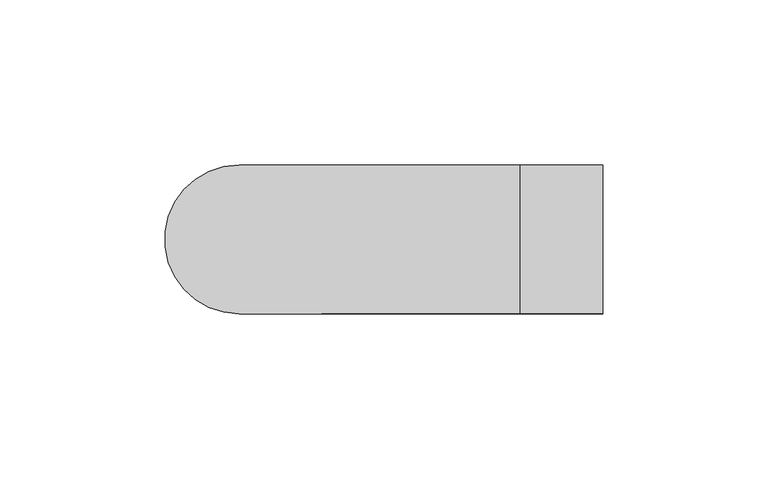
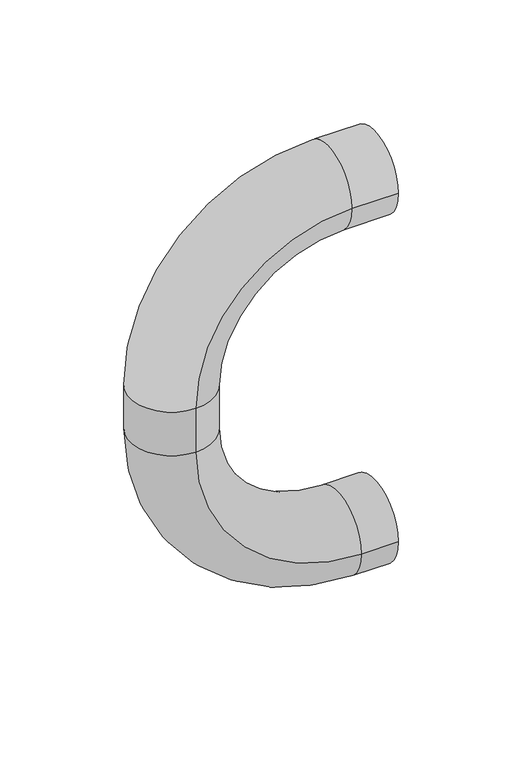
"""IFC4 building model written with IfcOpenShell, lengths in millimetres: proxy geometry, Terminaciones 1 : Terminaciones 1."""

from ifc_helpers import new_model, si_unit, point, frame, origin, place, context, project, spatial, circle_curve, ellipse_curve, trimmed, source, transform, mapped, element, save
from ifc_brep_helpers import plane_surface, cylinder_surface, revolved_surface, advanced_brep


def building_element_proxy_9133cc3a(model_context):
    return source(origin(), model_context, "Body", "AdvancedBrep", [
        advanced_brep(
        [(-8723.5949598, 421.1072273, 697.5), (-8723.5949598, 376.1072273, 697.5), (-8748.5949598, 421.1072273, 697.5), (-8748.5949598, 376.1072273, 697.5), (-8833.5949598, 376.1072273, 612.5), (-8833.5949598, 421.1072273, 612.5), (-8833.5949598, 421.1072273, 587.5), (-8833.5949598, 376.1072273, 587.5), (-8743.5949598, 376.1072273, 497.5), (-8743.5949598, 421.1072273, 497.5), (-8723.5949598, 421.1072273, 497.5), (-8723.5949598, 376.1072273, 497.5)],
        [
            (0, 1, circle_curve(frame((-8723.5949598, 398.6072273, 697.5), z_axis=(1.0, 0.0, 0.0), x_axis=(0.0, -1.0, 0.0)), 22.5)),
            (1, 0, circle_curve(frame((-8723.5949598, 398.6072273, 697.5), z_axis=(1.0, 0.0, 0.0), x_axis=(0.0, -1.0, 0.0)), 22.5)),
            (0, 2),
            (2, 3, circle_curve(frame((-8748.5949598, 398.6072273, 697.5), z_axis=(1.0, 0.0, 0.0), x_axis=(0.0, -1.0, 0.0)), 22.5)),
            (3, 1),
            (3, 2, circle_curve(frame((-8748.5949598, 398.6072273, 697.5), z_axis=(1.0, 0.0, 0.0), x_axis=(0.0, -1.0, 0.0)), 22.5)),
            (4, 3, circle_curve(frame((-8748.5949598, 376.1072273, 612.5), z_axis=(0.0, 1.0, 0.0), x_axis=(0.0, 0.0, 1.0)), 85.0)),
            (2, 5, circle_curve(frame((-8748.5949598, 421.1072273, 612.5), z_axis=(0.0, -1.0, 0.0), x_axis=(0.0, 0.0, 1.0)), 85.0)),
            (5, 4, circle_curve(frame((-8833.5949598, 398.6072273, 612.5), z_axis=(0.0, 0.0, 1.0), x_axis=(0.0, -1.0, 0.0)), 22.5)),
            (4, 5, circle_curve(frame((-8833.5949598, 398.6072273, 612.5), z_axis=(0.0, 0.0, 1.0), x_axis=(0.0, -1.0, 0.0)), 22.5)),
            (5, 6),
            (6, 7, circle_curve(frame((-8833.5949598, 398.6072273, 587.5), z_axis=(0.0, 0.0, 1.0), x_axis=(0.0, -1.0, 0.0)), 22.5)),
            (7, 4),
            (7, 6, circle_curve(frame((-8833.5949598, 398.6072273, 587.5), z_axis=(0.0, 0.0, 1.0), x_axis=(0.0, -1.0, 0.0)), 22.5)),
            (8, 7, circle_curve(frame((-8743.5949598, 376.1072273, 587.5), z_axis=(0.0, 1.0, 0.0), x_axis=(-1.0, 0.0, 0.0)), 90.0)),
            (6, 9, circle_curve(frame((-8743.5949598, 421.1072273, 587.5), z_axis=(0.0, -1.0, 0.0), x_axis=(-1.0, 0.0, 0.0)), 90.0)),
            (9, 8, circle_curve(frame((-8743.5949598, 398.6072273, 497.5), z_axis=(-1.0, 0.0, 0.0), x_axis=(0.0, -1.0, 0.0)), 22.5)),
            (8, 9, circle_curve(frame((-8743.5949598, 398.6072273, 497.5), z_axis=(-1.0, 0.0, 0.0), x_axis=(0.0, -1.0, 0.0)), 22.5)),
            (10, 11, circle_curve(frame((-8723.5949598, 398.6072273, 497.5), z_axis=(1.0, 0.0, 0.0), x_axis=(0.0, -1.0, 0.0)), 22.5)),
            (11, 10, circle_curve(frame((-8723.5949598, 398.6072273, 497.5), z_axis=(1.0, 0.0, 0.0), x_axis=(0.0, -1.0, 0.0)), 22.5)),
            (9, 10),
            (11, 8),
        ],
        [
            plane_surface(frame((-8723.5949598, 398.6072273, 697.5), z_axis=(1.0, 0.0, 0.0), x_axis=(0.0, -1.0, 0.0))),
            cylinder_surface(frame((-8723.5949598, 398.6072273, 697.5), z_axis=(1.0, 0.0, 0.0), x_axis=(0.0, -1.0, 0.0)), 22.5),
            revolved_surface(trimmed(ellipse_curve(frame((-8748.5949598, 398.6072273, 697.5), z_axis=(1.0, 0.0, 0.0), x_axis=(0.0, -1.0, 0.0)), 22.5, 22.5), [point((-8748.5949598, 421.1072273, 697.5))], [point((-8748.5949598, 376.1072273, 697.5))], True, "CARTESIAN"), (-8748.5949598, 398.6072273, 612.5), (0.0, -1.0, 0.0)),
            revolved_surface(trimmed(ellipse_curve(frame((-8748.5949598, 398.6072273, 697.5), z_axis=(1.0, 0.0, 0.0), x_axis=(0.0, -1.0, 0.0)), 22.5, 22.5), [point((-8748.5949598, 376.1072273, 697.5))], [point((-8748.5949598, 421.1072273, 697.5))], True, "CARTESIAN"), (-8748.5949598, 398.6072273, 612.5), (0.0, -1.0, 0.0)),
            cylinder_surface(frame((-8833.5949598, 398.6072273, 612.5), z_axis=(0.0, 0.0, 1.0), x_axis=(0.0, -1.0, 0.0)), 22.5),
            revolved_surface(trimmed(ellipse_curve(frame((-8833.5949598, 398.6072273, 587.5), z_axis=(0.0, 0.0, 1.0), x_axis=(0.0, -1.0, 0.0)), 22.5, 22.5), [point((-8833.5949598, 421.1072273, 587.5))], [point((-8833.5949598, 376.1072273, 587.5))], True, "CARTESIAN"), (-8743.5949598, 398.6072273, 587.5), (0.0, -1.0, 0.0)),
            revolved_surface(trimmed(ellipse_curve(frame((-8833.5949598, 398.6072273, 587.5), z_axis=(0.0, 0.0, 1.0), x_axis=(0.0, -1.0, 0.0)), 22.5, 22.5), [point((-8833.5949598, 376.1072273, 587.5))], [point((-8833.5949598, 421.1072273, 587.5))], True, "CARTESIAN"), (-8743.5949598, 398.6072273, 587.5), (0.0, -1.0, 0.0)),
            plane_surface(frame((-8723.5949598, 398.6072273, 497.5), z_axis=(1.0, 0.0, 0.0), x_axis=(0.0, -1.0, 0.0))),
            cylinder_surface(frame((-8743.5949598, 398.6072273, 497.5), z_axis=(-1.0, 0.0, 0.0), x_axis=(0.0, -1.0, 0.0)), 22.5),
        ],
        [
            (0, [[1, 2]]),
            (1, [[-1, 3, 4, 5]]),
            (1, [[-2, -5, 6, -3]]),
            (2, [[7, -4, 8, 9]]),
            (3, [[-8, -6, -7, 10]]),
            (4, [[-9, 11, 12, 13]]),
            (4, [[-10, -13, 14, -11]]),
            (5, [[15, -12, 16, 17]]),
            (6, [[-16, -14, -15, 18]]),
            (7, [[19, 20]]),
            (8, [[-17, 21, -20, 22]]),
            (8, [[-18, -22, -19, -21]]),
        ],
    ),
    ])


if __name__ == "__main__":
    model = new_model("IFC4")
    model_context = context("Model", 3, world=origin())
    ifc_project = project(units=[si_unit("LENGTHUNIT", "METRE", prefix="MILLI")], contexts=[model_context])
    site = spatial("IfcSite", under=ifc_project)
    building = spatial("IfcBuilding", under=site)
    placement = place(None, origin())
    building_element_proxy_shape = building_element_proxy_9133cc3a(model_context)
    element("IfcBuildingElementProxy", 1, Name="Terminaciones 1 : Terminaciones 1", ObjectType="Terminaciones 1 : Terminaciones 1", at=placement, inside=building, context=model_context, shape_type="MappedRepresentation", body=[
        mapped(building_element_proxy_shape, transform((0.0, 0.0, 0.0), x_axis=(1.0, 0.0, 0.0), y_axis=(0.0, 1.0, 0.0), z_axis=(0.0, 0.0, 1.0))),
    ])
    save(model, "model.ifc")
